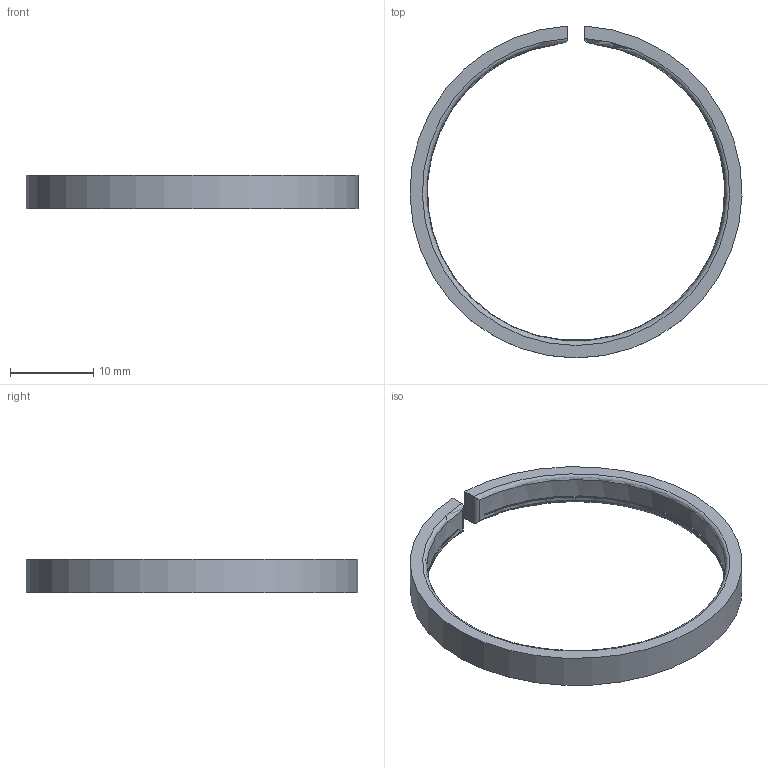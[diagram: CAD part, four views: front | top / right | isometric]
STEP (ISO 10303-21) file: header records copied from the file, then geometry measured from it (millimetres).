
FILE_DESCRIPTION(/* description */ (''),/* implementation_level */ '2;1');
FILE_NAME(/* name */ 'C:\Users\carinabecker\Desktop\STEP Modelle Zubehör\B40\Farbring offen\B40_Farbring_offen_orange.stp',/* time_stamp */ '2019-06-21T06:51:19+02:00',/* author */ ('CarinaBecker'),/* organization */ (''),/* preprocessor_version */ 'ST-DEVELOPER v16.13',/* originating_system */ 'Autodesk Inventor 2018',/* authorisation */ '');
FILE_SCHEMA (('AUTOMOTIVE_DESIGN { 1 0 10303 214 3 1 1 }'));
Length unit declared in the file: millimetre
Products named in the file (1): 7151A1140_orange
Bounding box: 39.99 x 39.98 x 4 mm (x, y, z)
Volume: 927.8 mm3; surface area: 1397.2 mm2
Topology: 1 solids, 1 shells, 15 faces, 36 edges, 24 vertices
Faces by surface type: plane 8, cylinder 5, torus 2
Entity records: 519 total; most frequent: CARTESIAN_POINT 120, DIRECTION 78, ORIENTED_EDGE 72, EDGE_CURVE 36, AXIS2_PLACEMENT_3D 30, VERTEX_POINT 24, LINE 18, VECTOR 18
